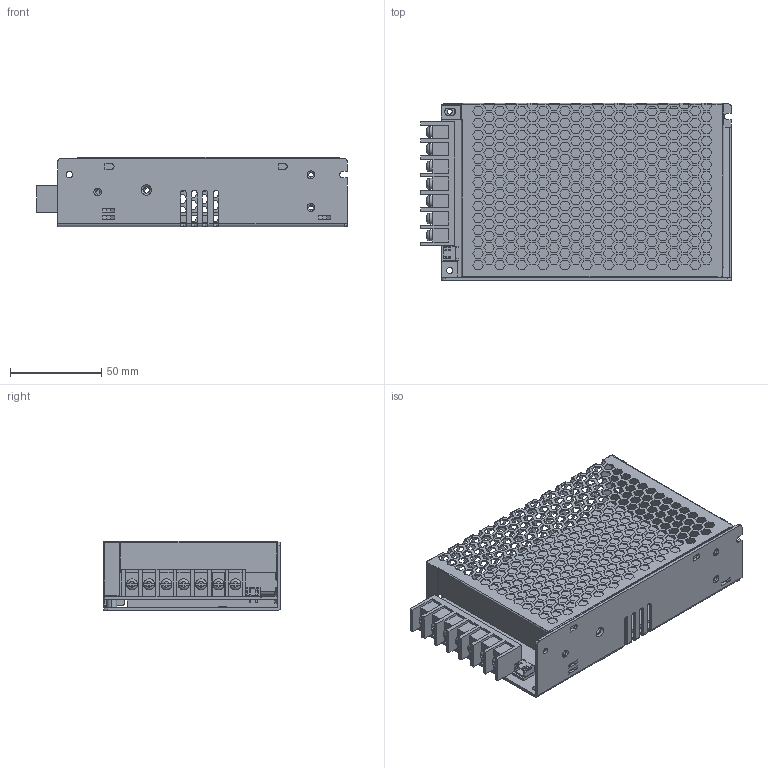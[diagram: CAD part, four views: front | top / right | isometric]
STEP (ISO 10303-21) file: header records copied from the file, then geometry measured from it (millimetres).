
FILE_DESCRIPTION(('Creo Elements/Direct Modeling STEP Export'),'2;1');
FILE_NAME('MSP-100.stp','2016-10-13T16:51:00',(''),(''),'PTC Creo Elements/Direct Modeling STEP processor for AP214 (Solid Model)','PTC Creo Elements/Direct Modeling 19.0 09-May-2014 (C) Parametric Technology GmbH','');
FILE_SCHEMA(('AUTOMOTIVE_DESIGN { 1 0 10303 214 1 1 1 1 }'));
Length unit declared in the file: millimetre
Products named in the file (6): p1; p2; JS100107; PCB; BASE; G5
Assembly tree (6 placements, depth 3):
  G5
    BASE
    PCB
    JS100107
      p2  x2
      p1
Bounding box: 170.5 x 97.1 x 38 mm (x, y, z)
Volume: 82876.5 mm3; surface area: 112837.8 mm2
Topology: 5 solids, 5 shells, 3141 faces, 9248 edges, 6102 vertices
Faces by surface type: plane 2938, cylinder 136, torus 34, bspline 31, cone 2
Entity records: 108945 total; most frequent: CARTESIAN_POINT 25040, ORIENTED_EDGE 18416, DIRECTION 15011, EDGE_CURVE 9208, VECTOR 8589, LINE 8589, VERTEX_POINT 6078, EDGE_LOOP 3984
